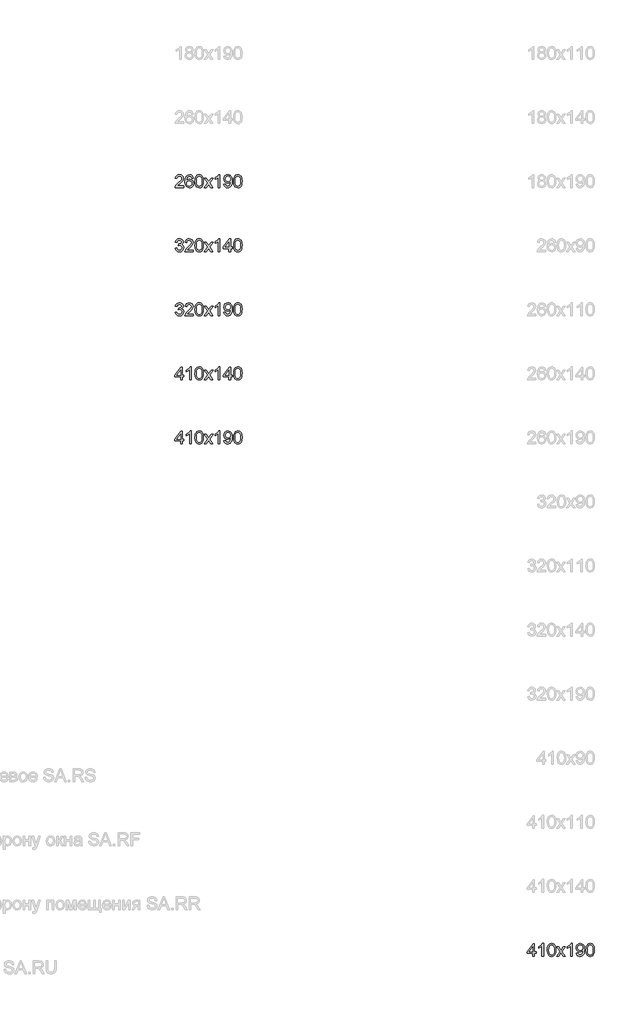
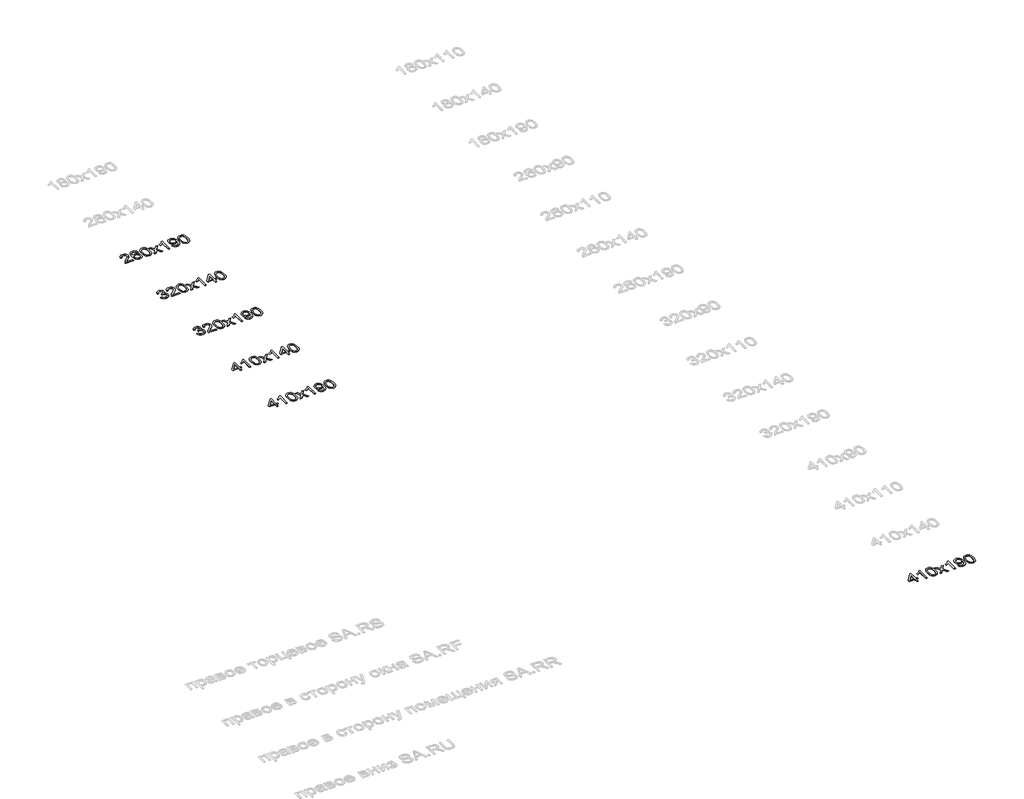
# One storey, part 10 of 17: 6 proxies.
"""IFC4 building model written with IfcOpenShell, lengths in millimetres."""

import ifcopenshell
import ifcopenshell.guid

model = None  # the IFC model being written
_history = None  # IfcOwnerHistory: only IFC2X3 demands one
_inside = {}  # id of a spatial element -> (the spatial element, [elements in it])
_under = {}  # id of a project, library or spatial element -> (it, [spatial elements below it])
_declared = {}  # id of a project -> (the project, [libraries it declares])
_typed = {}  # id of a type object -> (the type object, [elements of that type])
_made_of = {}  # id of a material, layer set ... -> (it, [elements and type objects made of it])


def new_model(schema):
    """Start an empty IFC model of exactly this schema.

    Asked for "IFC4X3", IfcOpenShell would pick the latest addendum, in which some entities
    have other attributes; the version numbers below select the first issue.
    IFC2X3 requires an IfcOwnerHistory on every rooted entity: one is made here for all.
    """
    global model, _history
    if schema == "IFC4X3":
        model = ifcopenshell.file(schema_version=(4, 3, 0, 0))
    else:
        model = ifcopenshell.file(schema=schema)
    _inside.clear()
    _under.clear()
    _declared.clear()
    _typed.clear()
    _made_of.clear()
    _history = None
    if model.schema == "IFC2X3":
        org = make("IfcOrganization", Name="unknown")
        user = make(
            "IfcPersonAndOrganization",
            ThePerson=make("IfcPerson", FamilyName="unknown"),
            TheOrganization=org,
        )
        app = make(
            "IfcApplication",
            ApplicationDeveloper=org,
            Version="unknown",
            ApplicationFullName="unknown",
            ApplicationIdentifier="unknown",
        )
        _history = make(
            "IfcOwnerHistory",
            OwningUser=user,
            OwningApplication=app,
            ChangeAction="ADDED",
            CreationDate=0,
        )
    return model


def make(cls, **values):
    """One entity of the class cls with the attributes given. An attribute that is None is left unset."""
    return model.create_entity(
        cls, **{name: value for name, value in values.items() if value is not None}
    )


def rooted(cls, **values):
    """An entity with a GlobalId (a new one), such as an element, a storey or a relation."""
    return make(cls, GlobalId=ifcopenshell.guid.new(), OwnerHistory=_history, **values)


def si_unit(unit_type, name, prefix=None):
    """IfcSIUnit, for example si_unit("LENGTHUNIT", "METRE", prefix="MILLI")."""
    return make("IfcSIUnit", UnitType=unit_type, Prefix=prefix, Name=name)


def assignment(units):
    """IfcUnitAssignment: the units of a project."""
    return None if units is None else make("IfcUnitAssignment", Units=units)


def point(xyz):
    """IfcCartesianPoint."""
    return None if xyz is None else make("IfcCartesianPoint", Coordinates=xyz)


def direction(xyz):
    """IfcDirection."""
    return None if xyz is None else make("IfcDirection", DirectionRatios=xyz)


def frame(location, z_axis=None, x_axis=None):
    """IfcAxis2Placement3D, a coordinate frame: its origin and axes. An axis left out is left unset."""
    return make(
        "IfcAxis2Placement3D",
        Location=point(location),
        Axis=direction(z_axis),
        RefDirection=direction(x_axis),
    )


def origin():
    """The frame at (0, 0, 0) with its axes left unset."""
    return frame((0.0, 0.0, 0.0))


def origin_with_axes():
    """The frame at (0, 0, 0) with the z axis (0, 0, 1) and the x axis (1, 0, 0) written out."""
    return frame((0.0, 0.0, 0.0), z_axis=(0.0, 0.0, 1.0), x_axis=(1.0, 0.0, 0.0))


def place(relative_to, where):
    """IfcLocalPlacement: puts the frame where relative to a parent placement (None: the world)."""
    return make(
        "IfcLocalPlacement", PlacementRelTo=relative_to, RelativePlacement=where
    )


def context(
    kind, dimensions, precision=None, world=None, true_north=None, identifier=None
):
    """IfcGeometricRepresentationContext, for example the 3D "Model" context."""
    return make(
        "IfcGeometricRepresentationContext",
        ContextIdentifier=identifier,
        ContextType=kind,
        CoordinateSpaceDimension=dimensions,
        Precision=precision,
        WorldCoordinateSystem=world,
        TrueNorth=true_north,
    )


def project(units=None, contexts=None):
    """IfcProject with its units and contexts."""
    return rooted(
        "IfcProject",
        Name="project",
        RepresentationContexts=contexts,
        UnitsInContext=assignment(units),
    )


def spatial(cls, under=None, at=None, **own):
    """A site, building, storey or space (cls), placed at a placement, below another one or the project."""
    s = rooted(cls, ObjectPlacement=at, **own)
    if under is not None:
        _under.setdefault(under.id(), (under, []))[1].append(s)
    return s


def polyline(points):
    """IfcPolyline through the points."""
    return make("IfcPolyline", Points=[point(p) for p in points])


def outline(outer, holes=None, kind="AREA"):
    """IfcArbitraryClosedProfileDef: a profile drawn as a closed curve; with holes, ...WithVoids."""
    if holes is None:
        return make("IfcArbitraryClosedProfileDef", ProfileType=kind, OuterCurve=outer)
    return make(
        "IfcArbitraryProfileDefWithVoids",
        ProfileType=kind,
        OuterCurve=outer,
        InnerCurves=holes,
    )


def extrude(swept, where, along, depth):
    """IfcExtrudedAreaSolid: the profile swept, set in the frame where, extruded along a direction by depth."""
    return make(
        "IfcExtrudedAreaSolid",
        SweptArea=swept,
        Position=where,
        ExtrudedDirection=direction(along),
        Depth=depth,
    )


def shape(context_of_items, identifier, shape_type, items):
    """IfcShapeRepresentation: the items that make up one representation, for example the "Body"."""
    return make(
        "IfcShapeRepresentation",
        ContextOfItems=context_of_items,
        RepresentationIdentifier=identifier,
        RepresentationType=shape_type,
        Items=items,
    )


def made_of(thing, what):
    """Note that an element or type object is made of a material, layer set ...; save() writes the relation."""
    if what is not None:
        _made_of.setdefault(what.id(), (what, []))[1].append(thing)
    return thing


def element(
    cls,
    number,
    at=None,
    inside=None,
    cuts=None,
    type_object=None,
    material=None,
    context=None,
    identifier="Body",
    shape_type=None,
    held_by="IfcProductDefinitionShape",
    body=None,
    shapes=None,
    **own,
):
    """One element of the class cls, such as IfcWall. Its Tag is "e" and its number.

    at: its placement. inside: the storey or other place that contains it. cuts: it is an
    opening in that element (IfcRelVoidsElement). A single representation is given by context,
    identifier, shape_type and body (its items); several are given by shapes. held_by: the class
    of the entity that holds the representations. save() writes the other relations.
    """
    e = rooted(cls, Tag="e%d" % number, ObjectPlacement=at, **own)
    if body is not None:
        shapes = [shape(context, identifier, shape_type, body)]
    if shapes is not None:
        e.Representation = make(held_by, Representations=shapes)
    if inside is not None:
        _inside.setdefault(inside.id(), (inside, []))[1].append(e)
    if cuts is not None:
        rooted(
            "IfcRelVoidsElement", RelatingBuildingElement=cuts, RelatedOpeningElement=e
        )
    if type_object is not None:
        _typed.setdefault(type_object.id(), (type_object, []))[1].append(e)
    return made_of(e, material)


def aggregate(whole, parts):
    """IfcRelAggregates: a whole, such as a stair, and the parts it consists of."""
    return rooted("IfcRelAggregates", RelatingObject=whole, RelatedObjects=parts)


def save(model, path):
    """Write the relations noted so far, then the file.

    IfcRelAggregates (storeys below a building ...), IfcRelContainedInSpatialStructure (elements
    in a storey), IfcRelDefinesByType, IfcRelAssociatesMaterial and IfcRelDeclares: one each for
    every whole, place, type object, material and project.
    """
    for whole, parts in _under.values():
        aggregate(whole, parts)
    for where, things in _inside.values():
        rooted(
            "IfcRelContainedInSpatialStructure",
            RelatedElements=things,
            RelatingStructure=where,
        )
    for kind, things in _typed.values():
        rooted("IfcRelDefinesByType", RelatedObjects=things, RelatingType=kind)
    for what, things in _made_of.values():
        rooted("IfcRelAssociatesMaterial", RelatedObjects=things, RelatingMaterial=what)
    for by, libraries in _declared.values():
        rooted("IfcRelDeclares", RelatingContext=by, RelatedDefinitions=libraries)
    model.write(path)


model = new_model("IFC4")

# Units and contexts
model_context = context("Model", 3, world=origin())
ifc_project = project(units=[si_unit("LENGTHUNIT", "METRE", prefix="MILLI")], contexts=[model_context])

# Site, building, storey
site = spatial("IfcSite", under=ifc_project)
building = spatial("IfcBuilding", under=site)
storey = spatial("IfcBuildingStorey", under=building, Name="Уровень 1", Elevation=0.0)

# Proxies
placement = place(None, origin())
element("IfcBuildingElementProxy", 1, Name="Текст модели 1", ObjectType="Текст модели 1", at=placement, inside=storey, context=model_context, shape_type="SweptSolid", body=[
    extrude(outline(polyline([(28887.2782272, -428.1283927), (28887.2782272, -453.2424702), (28755.4293201, -453.2424702), (28758.1271214, -435.927491), (28773.3819615, -409.2683091), (28804.8236093, -380.1565805), (28848.1846338, -338.316135), (28856.3148259, -323.8951607), (28859.0248899, -309.866594), (28856.4681101, -297.2911611), (28848.7977705, -286.8371811), (28837.0071525, -279.7922409), (28822.0895376, -277.4439275), (28806.423896, -279.7370586), (28794.2531333, -286.6164519), (28786.3988527, -297.5425472), (28783.6826573, -311.9757841), (28758.5685798, -308.8365244), (28764.6570268, -284.54405), (28777.8210709, -266.7998751), (28797.3739989, -255.9473562), (28822.6290979, -252.3298499), (28848.0681378, -256.3520264), (28867.5842777, -268.4185559), (28880.000295, -286.4447736), (28884.1389675, -308.3460151), (28879.6753326, -332.1602429), (28864.8374255, -356.7838111), (28828.8585663, -391.1930404), (28799.967567, -415.3506247), (28788.6368015, -428.1283927), (28887.2782272, -428.1283927)])), origin_with_axes(), (0.0, 0.0, 1.0), 2.0),
    extrude(outline(polyline([(29041.1019521, -305.6972647), (29015.9878745, -308.8365244), (29006.4719936, -287.8917761), (28995.0799145, -280.0558897), (28981.3088651, -277.4439275), (28958.6473342, -283.5262431), (28949.2111611, -293.1340946), (28941.5040333, -306.3594523), (28936.298503, -325.0662518), (28934.3671225, -351.1184284), (28944.4409578, -339.3645986), (28956.5136187, -331.0811224), (28969.9106546, -326.1698977), (28983.9576155, -324.5328229), (29007.1587067, -329.0087205), (29026.6319269, -342.4364133), (29039.8388906, -362.9519659), (29044.2412118, -388.6914428), (29042.1688099, -406.674741), (29035.9516042, -423.3459268), (29026.1046294, -437.4848581), (29013.1429204, -447.8713931), (28997.6550885, -454.2541457), (28980.2297446, -456.3817299), (28951.7372841, -450.7408727), (28929.0450964, -433.8183009), (28920.3860739, -420.7094391), (28914.2010578, -403.9462829), (28909.253045, -359.4570869), (28914.7467495, -309.4373983), (28921.61388, -290.3596512), (28931.2278629, -275.2366355), (28941.6481204, -265.2149168), (28953.7299782, -258.0565463), (28982.878495, -252.3298499), (29004.9146265, -255.8737798), (29022.5606995, -266.5055695), (29034.9215346, -283.3913531), (29041.1019521, -305.6972647)]), holes=[polyline([(28934.3671225, -388.2990354), (28940.1796581, -410.053124), (28955.6307019, -425.8475243), (28978.2677073, -431.2676524), (28994.8407912, -428.4594865), (29007.8699452, -420.0349888), (29016.312837, -406.791237), (29019.1271342, -389.5253087), (29016.3496252, -372.9522248), (29008.017098, -360.3154783), (28994.7672148, -352.3140449), (28977.2376377, -349.6469004), (28960.6890793, -352.3140449), (28946.8505849, -360.3154783), (28937.4879881, -372.6456565), (28934.3671225, -388.2990354)])]), origin_with_axes(), (0.0, 0.0, 1.0), 2.0),
    extrude(outline(polyline([(29066.2160296, -354.4048409), (29068.061571, -322.2458231), (29073.598195, -296.5983167), (29082.7707194, -277.0699141), (29095.5239619, -263.2682079), (29111.949893, -255.0644394), (29132.1404832, -252.3298499), (29147.6160524, -253.9485307), (29161.4729409, -258.8045731), (29173.0612238, -266.7079046), (29181.7309761, -277.468453), (29193.5032, -307.1933182), (29198.0649367, -354.4048409), (29196.2377894, -386.3799176), (29190.7563477, -411.9661104), (29181.6390056, -431.5129071), (29168.9041572, -445.3697956), (29152.4414379, -453.6287463), (29132.1404832, -456.3817299), (29106.045387, -451.599264), (29086.2288102, -437.2518662), (29077.4732187, -422.1227191), (29071.2192248, -403.2718326), (29066.2160296, -354.4048409)]), holes=[polyline([(29091.3301072, -354.3557899), (29094.2731631, -393.8601849), (29103.102331, -416.7240509), (29116.247981, -427.631752), (29132.1404832, -431.2676524), (29148.0329853, -427.6194893), (29161.1786353, -416.6749999), (29170.0078032, -393.7988712), (29172.9508592, -354.3557899), (29170.1059051, -315.7404432), (29161.5710428, -292.6987676), (29148.4499183, -281.2576375), (29131.8461776, -277.4439275), (29116.1253536, -280.8039164), (29103.4947385, -290.883883), (29094.371265, -315.3602985), (29091.3301072, -354.3557899)])]), origin_with_axes(), (0.0, 0.0, 1.0), 2.0),
    extrude(outline(polyline([(29210.6219755, -453.2424702), (29264.2836958, -379.07746), (29213.7612352, -305.6972647), (29243.9766097, -305.6972647), (29268.3549232, -341.0139363), (29279.7347396, -357.6912534), (29289.5939771, -344.0550941), (29317.356805, -305.6972647), (29347.5721795, -305.6972647), (29294.4990704, -379.07746), (29345.6101422, -453.2424702), (29315.3947677, -453.2424702), (29284.6398329, -408.6551724), (29278.9989756, -400.5127176), (29240.83735, -453.2424702), (29210.6219755, -453.2424702)])), origin_with_axes(), (0.0, 0.0, 1.0), 2.0),
    extrude(outline(polyline([(29455.4842314, -453.2424702), (29430.3701539, -453.2424702), (29430.3701539, -296.6718931), (29406.5804516, -313.6189903), (29380.1419988, -326.2986564), (29380.1419988, -302.558005), (29416.9547238, -279.0626083), (29430.4253362, -265.4877626), (29439.2974237, -252.3298499), (29455.4842314, -252.3298499), (29455.4842314, -453.2424702)])), origin_with_axes(), (0.0, 0.0, 1.0), 2.0),
    extrude(outline(polyline([(29518.2694253, -403.0143152), (29543.3835028, -399.8750555), (29547.6754594, -414.1304828), (29554.6652173, -423.8364361), (29564.1810983, -429.4098483), (29576.051424, -431.2676524), (29596.3830356, -426.4851865), (29610.1663477, -413.7074185), (29618.3823789, -391.8797535), (29622.0121479, -362.7434994), (29621.8649951, -357.8384062), (29613.1645859, -368.4579331), (29601.7786382, -376.870168), (29588.528755, -382.3516098), (29574.2365395, -384.178757), (29551.3358853, -379.7151221), (29532.2734666, -366.3242175), (29519.4159908, -345.6369867), (29515.1301656, -319.2843731), (29519.6244573, -292.0611054), (29533.1073324, -270.7239497), (29553.3592363, -256.9283749), (29578.1606141, -252.3298499), (29596.891939, -254.9540748), (29613.9432695, -262.8267495), (29628.2048282, -275.5554666), (29638.5668377, -292.7478185), (29644.8760139, -316.5129954), (29646.9790727, -348.9601873), (29644.8821453, -383.3632853), (29638.5913632, -409.9550221), (29628.1619086, -429.9371459), (29613.6489639, -444.5114042), (29595.6779284, -453.4141485), (29574.8742016, -456.3817299), (29553.4021558, -452.8807196), (29536.2711176, -442.3776887), (29524.2904273, -425.5348246), (29518.2694253, -403.0143152)]), holes=[polyline([(29621.8649951, -318.6957619), (29619.1549311, -301.6750882), (29611.024739, -288.5784892), (29598.4063866, -280.2275679), (29582.2318415, -277.4439275), (29565.4564225, -280.4421657), (29552.016467, -289.4368805), (29543.1872991, -303.2017985), (29540.2442431, -320.5106464), (29543.0278836, -336.0291352), (29551.3788049, -348.3470507), (29564.4876666, -356.3852723), (29581.5451285, -359.0646795), (29597.5909148, -356.3852723), (29610.5097042, -348.3470507), (29619.0261724, -335.5754141), (29621.8649951, -318.6957619)])]), origin_with_axes(), (0.0, 0.0, 1.0), 2.0),
    extrude(outline(polyline([(29668.9538905, -354.4048409), (29670.7994319, -322.2458231), (29676.3360559, -296.5983167), (29685.5085803, -277.0699141), (29698.2618228, -263.2682079), (29714.6877539, -255.0644394), (29734.8783441, -252.3298499), (29750.3539133, -253.9485307), (29764.2108018, -258.8045731), (29775.7990847, -266.7079046), (29784.468837, -277.468453), (29796.2410608, -307.1933182), (29800.8027976, -354.4048409), (29798.9756503, -386.3799176), (29793.4942086, -411.9661104), (29784.3768665, -431.5129071), (29771.6420181, -445.3697956), (29755.1792988, -453.6287463), (29734.8783441, -456.3817299), (29708.7832479, -451.599264), (29688.9666711, -437.2518662), (29680.2110796, -422.1227191), (29673.9570857, -403.2718326), (29668.9538905, -354.4048409)]), holes=[polyline([(29694.0679681, -354.3557899), (29697.011024, -393.8601849), (29705.8401919, -416.7240509), (29718.9858419, -427.631752), (29734.8783441, -431.2676524), (29750.7708462, -427.6194893), (29763.9164962, -416.6749999), (29772.7456641, -393.7988712), (29775.6887201, -354.3557899), (29772.843766, -315.7404432), (29764.3089037, -292.6987676), (29751.1877792, -281.2576375), (29734.5840385, -277.4439275), (29718.8632145, -280.8039164), (29706.2325994, -290.883883), (29697.1091259, -315.3602985), (29694.0679681, -354.3557899)])]), origin_with_axes(), (0.0, 0.0, 1.0), 2.0),
])
element("IfcBuildingElementProxy", 2, Name="Текст модели 1", ObjectType="Текст модели 1", at=placement, inside=storey, context=model_context, shape_type="SweptSolid", body=[
    extrude(outline(polyline([(28758.5685798, -1399.8750555), (28783.6826573, -1396.7357958), (28789.3051205, -1412.5179334), (28797.5395458, -1423.1742485), (28808.7906035, -1429.2443014), (28823.4629637, -1431.2676524), (28840.6798411, -1428.484012), (28853.9726439, -1420.1330907), (28862.470718, -1407.6741538), (28865.3034093, -1392.5664665), (28862.4952434, -1378.2252001), (28854.0707457, -1366.5939977), (28841.3175032, -1358.8868699), (28825.5231029, -1356.3178273), (28807.9138181, -1359.0646795), (28810.7097212, -1333.9506019), (28814.7318977, -1334.2449075), (28829.7782713, -1332.4422858), (28843.2304896, -1327.0344204), (28852.7218451, -1317.8864215), (28855.8856302, -1304.8633989), (28853.5924991, -1294.0170114), (28846.7131058, -1285.2185003), (28836.2162062, -1279.3875707), (28823.0705563, -1277.4439275), (28809.9003808, -1279.4059648), (28799.1337011, -1285.2920767), (28791.2732892, -1295.1022633), (28786.821917, -1308.8365244), (28761.7078395, -1305.6972647), (28769.1022676, -1283.1460984), (28782.2601803, -1266.3093658), (28800.2618726, -1255.8247289), (28822.1876395, -1252.3298499), (28837.9759084, -1254.052764), (28852.4765904, -1259.221506), (28864.7025354, -1267.3762236), (28873.6665933, -1278.0570641), (28879.1664292, -1290.3627169), (28880.9997078, -1303.3918709), (28879.2583997, -1315.5319767), (28874.0344753, -1326.5439111), (28865.4015112, -1335.924902), (28853.4330836, -1343.1721773), (28869.1539075, -1349.5242731), (28880.8035041, -1360.3400037), (28888.0139912, -1375.0307581), (28890.4174869, -1393.0079249), (28885.6104955, -1417.4843403), (28871.1895212, -1437.9385792), (28849.4231699, -1451.7709423), (28822.5800469, -1456.3817299), (28798.2998353, -1452.4453926), (28778.5323094, -1440.6363805), (28764.7857855, -1422.5733746), (28758.5685798, -1399.8750555)])), origin_with_axes(), (0.0, 0.0, 1.0), 2.0),
    extrude(outline(polyline([(29041.1019521, -1428.1283927), (29041.1019521, -1453.2424702), (28909.253045, -1453.2424702), (28911.9508463, -1435.927491), (28927.2056864, -1409.2683091), (28958.6473342, -1380.1565805), (29002.0083587, -1338.316135), (29010.1385508, -1323.8951607), (29012.8486149, -1309.866594), (29010.291835, -1297.2911611), (29002.6214954, -1286.8371811), (28990.8308774, -1279.7922409), (28975.9132625, -1277.4439275), (28960.2476209, -1279.7370586), (28948.0768582, -1286.6164519), (28940.2225776, -1297.5425472), (28937.5063822, -1311.9757841), (28912.3923047, -1308.8365244), (28918.4807517, -1284.54405), (28931.6447958, -1266.7998751), (28951.1977238, -1255.9473562), (28976.4528228, -1252.3298499), (29001.8918628, -1256.3520264), (29021.4080026, -1268.4185559), (29033.8240199, -1286.4447736), (29037.9626924, -1308.3460151), (29033.4990575, -1332.1602429), (29018.6611504, -1356.7838111), (28982.6822912, -1391.1930404), (28953.7912919, -1415.3506247), (28942.4605264, -1428.1283927), (29041.1019521, -1428.1283927)])), origin_with_axes(), (0.0, 0.0, 1.0), 2.0),
    extrude(outline(polyline([(29066.2160296, -1354.4048409), (29068.061571, -1322.2458231), (29073.598195, -1296.5983167), (29082.7707194, -1277.0699141), (29095.5239619, -1263.2682079), (29111.949893, -1255.0644394), (29132.1404832, -1252.3298499), (29147.6160524, -1253.9485307), (29161.4729409, -1258.8045731), (29173.0612238, -1266.7079046), (29181.7309761, -1277.468453), (29193.5032, -1307.1933182), (29198.0649367, -1354.4048409), (29196.2377894, -1386.3799176), (29190.7563477, -1411.9661104), (29181.6390056, -1431.5129071), (29168.9041572, -1445.3697956), (29152.4414379, -1453.6287463), (29132.1404832, -1456.3817299), (29106.045387, -1451.599264), (29086.2288102, -1437.2518662), (29077.4732187, -1422.1227191), (29071.2192248, -1403.2718326), (29066.2160296, -1354.4048409)]), holes=[polyline([(29091.3301072, -1354.3557899), (29094.2731631, -1393.8601849), (29103.102331, -1416.7240509), (29116.247981, -1427.631752), (29132.1404832, -1431.2676524), (29148.0329853, -1427.6194893), (29161.1786353, -1416.6749999), (29170.0078032, -1393.7988712), (29172.9508592, -1354.3557899), (29170.1059051, -1315.7404432), (29161.5710428, -1292.6987676), (29148.4499183, -1281.2576375), (29131.8461776, -1277.4439275), (29116.1253536, -1280.8039164), (29103.4947385, -1290.883883), (29094.371265, -1315.3602985), (29091.3301072, -1354.3557899)])]), origin_with_axes(), (0.0, 0.0, 1.0), 2.0),
    extrude(outline(polyline([(29210.6219755, -1453.2424702), (29264.2836958, -1379.07746), (29213.7612352, -1305.6972647), (29243.9766097, -1305.6972647), (29268.3549232, -1341.0139363), (29279.7347396, -1357.6912534), (29289.5939771, -1344.0550941), (29317.356805, -1305.6972647), (29347.5721795, -1305.6972647), (29294.4990704, -1379.07746), (29345.6101422, -1453.2424702), (29315.3947677, -1453.2424702), (29284.6398329, -1408.6551724), (29278.9989756, -1400.5127176), (29240.83735, -1453.2424702), (29210.6219755, -1453.2424702)])), origin_with_axes(), (0.0, 0.0, 1.0), 2.0),
    extrude(outline(polyline([(29455.4842314, -1453.2424702), (29430.3701539, -1453.2424702), (29430.3701539, -1296.6718931), (29406.5804516, -1313.6189903), (29380.1419988, -1326.2986564), (29380.1419988, -1302.558005), (29416.9547238, -1279.0626083), (29430.4253362, -1265.4877626), (29439.2974237, -1252.3298499), (29455.4842314, -1252.3298499), (29455.4842314, -1453.2424702)])), origin_with_axes(), (0.0, 0.0, 1.0), 2.0),
    extrude(outline(polyline([(29596.7509176, -1453.2424702), (29596.7509176, -1406.1535749), (29505.7123865, -1406.1535749), (29505.7123865, -1381.0394973), (29603.029437, -1255.4691096), (29621.8649951, -1255.4691096), (29621.8649951, -1381.0394973), (29646.9790727, -1381.0394973), (29646.9790727, -1406.1535749), (29621.8649951, -1406.1535749), (29621.8649951, -1453.2424702), (29596.7509176, -1453.2424702)]), holes=[polyline([(29596.7509176, -1381.0394973), (29596.7509176, -1303.4409218), (29536.6144741, -1381.0394973), (29596.7509176, -1381.0394973)])]), origin_with_axes(), (0.0, 0.0, 1.0), 2.0),
    extrude(outline(polyline([(29668.9538905, -1354.4048409), (29670.7994319, -1322.2458231), (29676.3360559, -1296.5983167), (29685.5085803, -1277.0699141), (29698.2618228, -1263.2682079), (29714.6877539, -1255.0644394), (29734.8783441, -1252.3298499), (29750.3539133, -1253.9485307), (29764.2108018, -1258.8045731), (29775.7990847, -1266.7079046), (29784.468837, -1277.468453), (29796.2410608, -1307.1933182), (29800.8027976, -1354.4048409), (29798.9756503, -1386.3799176), (29793.4942086, -1411.9661104), (29784.3768665, -1431.5129071), (29771.6420181, -1445.3697956), (29755.1792988, -1453.6287463), (29734.8783441, -1456.3817299), (29708.7832479, -1451.599264), (29688.9666711, -1437.2518662), (29680.2110796, -1422.1227191), (29673.9570857, -1403.2718326), (29668.9538905, -1354.4048409)]), holes=[polyline([(29694.0679681, -1354.3557899), (29697.011024, -1393.8601849), (29705.8401919, -1416.7240509), (29718.9858419, -1427.631752), (29734.8783441, -1431.2676524), (29750.7708462, -1427.6194893), (29763.9164962, -1416.6749999), (29772.7456641, -1393.7988712), (29775.6887201, -1354.3557899), (29772.843766, -1315.7404432), (29764.3089037, -1292.6987676), (29751.1877792, -1281.2576375), (29734.5840385, -1277.4439275), (29718.8632145, -1280.8039164), (29706.2325994, -1290.883883), (29697.1091259, -1315.3602985), (29694.0679681, -1354.3557899)])]), origin_with_axes(), (0.0, 0.0, 1.0), 2.0),
])
element("IfcBuildingElementProxy", 3, Name="Текст модели 1", ObjectType="Текст модели 1", at=placement, inside=storey, context=model_context, shape_type="SweptSolid", body=[
    extrude(outline(polyline([(28758.5685798, -2399.8750555), (28783.6826573, -2396.7357958), (28789.3051205, -2412.5179334), (28797.5395458, -2423.1742485), (28808.7906035, -2429.2443014), (28823.4629637, -2431.2676524), (28840.6798411, -2428.484012), (28853.9726439, -2420.1330907), (28862.470718, -2407.6741538), (28865.3034093, -2392.5664665), (28862.4952434, -2378.2252001), (28854.0707457, -2366.5939977), (28841.3175032, -2358.8868699), (28825.5231029, -2356.3178273), (28807.9138181, -2359.0646795), (28810.7097212, -2333.9506019), (28814.7318977, -2334.2449075), (28829.7782713, -2332.4422858), (28843.2304896, -2327.0344204), (28852.7218451, -2317.8864215), (28855.8856302, -2304.8633989), (28853.5924991, -2294.0170114), (28846.7131058, -2285.2185003), (28836.2162062, -2279.3875707), (28823.0705563, -2277.4439275), (28809.9003808, -2279.4059648), (28799.1337011, -2285.2920767), (28791.2732892, -2295.1022633), (28786.821917, -2308.8365244), (28761.7078395, -2305.6972647), (28769.1022676, -2283.1460984), (28782.2601803, -2266.3093658), (28800.2618726, -2255.8247289), (28822.1876395, -2252.3298499), (28837.9759084, -2254.052764), (28852.4765904, -2259.221506), (28864.7025354, -2267.3762236), (28873.6665933, -2278.0570641), (28879.1664292, -2290.3627169), (28880.9997078, -2303.3918709), (28879.2583997, -2315.5319767), (28874.0344753, -2326.5439111), (28865.4015112, -2335.924902), (28853.4330836, -2343.1721773), (28869.1539075, -2349.5242731), (28880.8035041, -2360.3400037), (28888.0139912, -2375.0307581), (28890.4174869, -2393.0079249), (28885.6104955, -2417.4843403), (28871.1895212, -2437.9385792), (28849.4231699, -2451.7709423), (28822.5800469, -2456.3817299), (28798.2998353, -2452.4453926), (28778.5323094, -2440.6363805), (28764.7857855, -2422.5733746), (28758.5685798, -2399.8750555)])), origin_with_axes(), (0.0, 0.0, 1.0), 2.0),
    extrude(outline(polyline([(29041.1019521, -2428.1283927), (29041.1019521, -2453.2424702), (28909.253045, -2453.2424702), (28911.9508463, -2435.927491), (28927.2056864, -2409.2683091), (28958.6473342, -2380.1565805), (29002.0083587, -2338.316135), (29010.1385508, -2323.8951607), (29012.8486149, -2309.866594), (29010.291835, -2297.2911611), (29002.6214954, -2286.8371811), (28990.8308774, -2279.7922409), (28975.9132625, -2277.4439275), (28960.2476209, -2279.7370586), (28948.0768582, -2286.6164519), (28940.2225776, -2297.5425472), (28937.5063822, -2311.9757841), (28912.3923047, -2308.8365244), (28918.4807517, -2284.54405), (28931.6447958, -2266.7998751), (28951.1977238, -2255.9473562), (28976.4528228, -2252.3298499), (29001.8918628, -2256.3520264), (29021.4080026, -2268.4185559), (29033.8240199, -2286.4447736), (29037.9626924, -2308.3460151), (29033.4990575, -2332.1602429), (29018.6611504, -2356.7838111), (28982.6822912, -2391.1930404), (28953.7912919, -2415.3506247), (28942.4605264, -2428.1283927), (29041.1019521, -2428.1283927)])), origin_with_axes(), (0.0, 0.0, 1.0), 2.0),
    extrude(outline(polyline([(29066.2160296, -2354.4048409), (29068.061571, -2322.2458231), (29073.598195, -2296.5983167), (29082.7707194, -2277.0699141), (29095.5239619, -2263.2682079), (29111.949893, -2255.0644394), (29132.1404832, -2252.3298499), (29147.6160524, -2253.9485307), (29161.4729409, -2258.8045731), (29173.0612238, -2266.7079046), (29181.7309761, -2277.468453), (29193.5032, -2307.1933182), (29198.0649367, -2354.4048409), (29196.2377894, -2386.3799176), (29190.7563477, -2411.9661104), (29181.6390056, -2431.5129071), (29168.9041572, -2445.3697956), (29152.4414379, -2453.6287463), (29132.1404832, -2456.3817299), (29106.045387, -2451.599264), (29086.2288102, -2437.2518662), (29077.4732187, -2422.1227191), (29071.2192248, -2403.2718326), (29066.2160296, -2354.4048409)]), holes=[polyline([(29091.3301072, -2354.3557899), (29094.2731631, -2393.8601849), (29103.102331, -2416.7240509), (29116.247981, -2427.631752), (29132.1404832, -2431.2676524), (29148.0329853, -2427.6194893), (29161.1786353, -2416.6749999), (29170.0078032, -2393.7988712), (29172.9508592, -2354.3557899), (29170.1059051, -2315.7404432), (29161.5710428, -2292.6987676), (29148.4499183, -2281.2576375), (29131.8461776, -2277.4439275), (29116.1253536, -2280.8039164), (29103.4947385, -2290.883883), (29094.371265, -2315.3602985), (29091.3301072, -2354.3557899)])]), origin_with_axes(), (0.0, 0.0, 1.0), 2.0),
    extrude(outline(polyline([(29210.6219755, -2453.2424702), (29264.2836958, -2379.07746), (29213.7612352, -2305.6972647), (29243.9766097, -2305.6972647), (29268.3549232, -2341.0139363), (29279.7347396, -2357.6912534), (29289.5939771, -2344.0550941), (29317.356805, -2305.6972647), (29347.5721795, -2305.6972647), (29294.4990704, -2379.07746), (29345.6101422, -2453.2424702), (29315.3947677, -2453.2424702), (29284.6398329, -2408.6551724), (29278.9989756, -2400.5127176), (29240.83735, -2453.2424702), (29210.6219755, -2453.2424702)])), origin_with_axes(), (0.0, 0.0, 1.0), 2.0),
    extrude(outline(polyline([(29455.4842314, -2453.2424702), (29430.3701539, -2453.2424702), (29430.3701539, -2296.6718931), (29406.5804516, -2313.6189903), (29380.1419988, -2326.2986564), (29380.1419988, -2302.558005), (29416.9547238, -2279.0626083), (29430.4253362, -2265.4877626), (29439.2974237, -2252.3298499), (29455.4842314, -2252.3298499), (29455.4842314, -2453.2424702)])), origin_with_axes(), (0.0, 0.0, 1.0), 2.0),
    extrude(outline(polyline([(29518.2694253, -2403.0143152), (29543.3835028, -2399.8750555), (29547.6754594, -2414.1304828), (29554.6652173, -2423.8364361), (29564.1810983, -2429.4098483), (29576.051424, -2431.2676524), (29596.3830356, -2426.4851865), (29610.1663477, -2413.7074185), (29618.3823789, -2391.8797535), (29622.0121479, -2362.7434994), (29621.8649951, -2357.8384062), (29613.1645859, -2368.4579331), (29601.7786382, -2376.870168), (29588.528755, -2382.3516098), (29574.2365395, -2384.178757), (29551.3358853, -2379.7151221), (29532.2734666, -2366.3242175), (29519.4159908, -2345.6369867), (29515.1301656, -2319.2843731), (29519.6244573, -2292.0611054), (29533.1073324, -2270.7239497), (29553.3592363, -2256.9283749), (29578.1606141, -2252.3298499), (29596.891939, -2254.9540748), (29613.9432695, -2262.8267495), (29628.2048282, -2275.5554666), (29638.5668377, -2292.7478185), (29644.8760139, -2316.5129954), (29646.9790727, -2348.9601873), (29644.8821453, -2383.3632853), (29638.5913632, -2409.9550221), (29628.1619086, -2429.9371459), (29613.6489639, -2444.5114042), (29595.6779284, -2453.4141485), (29574.8742016, -2456.3817299), (29553.4021558, -2452.8807196), (29536.2711176, -2442.3776887), (29524.2904273, -2425.5348246), (29518.2694253, -2403.0143152)]), holes=[polyline([(29621.8649951, -2318.6957619), (29619.1549311, -2301.6750882), (29611.024739, -2288.5784892), (29598.4063866, -2280.2275679), (29582.2318415, -2277.4439275), (29565.4564225, -2280.4421657), (29552.016467, -2289.4368805), (29543.1872991, -2303.2017985), (29540.2442431, -2320.5106464), (29543.0278836, -2336.0291352), (29551.3788049, -2348.3470507), (29564.4876666, -2356.3852723), (29581.5451285, -2359.0646795), (29597.5909148, -2356.3852723), (29610.5097042, -2348.3470507), (29619.0261724, -2335.5754141), (29621.8649951, -2318.6957619)])]), origin_with_axes(), (0.0, 0.0, 1.0), 2.0),
    extrude(outline(polyline([(29668.9538905, -2354.4048409), (29670.7994319, -2322.2458231), (29676.3360559, -2296.5983167), (29685.5085803, -2277.0699141), (29698.2618228, -2263.2682079), (29714.6877539, -2255.0644394), (29734.8783441, -2252.3298499), (29750.3539133, -2253.9485307), (29764.2108018, -2258.8045731), (29775.7990847, -2266.7079046), (29784.468837, -2277.468453), (29796.2410608, -2307.1933182), (29800.8027976, -2354.4048409), (29798.9756503, -2386.3799176), (29793.4942086, -2411.9661104), (29784.3768665, -2431.5129071), (29771.6420181, -2445.3697956), (29755.1792988, -2453.6287463), (29734.8783441, -2456.3817299), (29708.7832479, -2451.599264), (29688.9666711, -2437.2518662), (29680.2110796, -2422.1227191), (29673.9570857, -2403.2718326), (29668.9538905, -2354.4048409)]), holes=[polyline([(29694.0679681, -2354.3557899), (29697.011024, -2393.8601849), (29705.8401919, -2416.7240509), (29718.9858419, -2427.631752), (29734.8783441, -2431.2676524), (29750.7708462, -2427.6194893), (29763.9164962, -2416.6749999), (29772.7456641, -2393.7988712), (29775.6887201, -2354.3557899), (29772.843766, -2315.7404432), (29764.3089037, -2292.6987676), (29751.1877792, -2281.2576375), (29734.5840385, -2277.4439275), (29718.8632145, -2280.8039164), (29706.2325994, -2290.883883), (29697.1091259, -2315.3602985), (29694.0679681, -2354.3557899)])]), origin_with_axes(), (0.0, 0.0, 1.0), 2.0),
])
element("IfcBuildingElementProxy", 4, Name="Текст модели 1", ObjectType="Текст модели 1", at=placement, inside=storey, context=model_context, shape_type="SweptSolid", body=[
    extrude(outline(polyline([(28840.1893318, -3453.2424702), (28840.1893318, -3406.1535749), (28749.1508007, -3406.1535749), (28749.1508007, -3381.0394973), (28846.4678512, -3255.4691096), (28865.3034093, -3255.4691096), (28865.3034093, -3381.0394973), (28890.4174869, -3381.0394973), (28890.4174869, -3406.1535749), (28865.3034093, -3406.1535749), (28865.3034093, -3453.2424702), (28840.1893318, -3453.2424702)]), holes=[polyline([(28840.1893318, -3381.0394973), (28840.1893318, -3303.4409218), (28780.0528883, -3381.0394973), (28840.1893318, -3381.0394973)])]), origin_with_axes(), (0.0, 0.0, 1.0), 2.0),
    extrude(outline(polyline([(29006.5700955, -3453.2424702), (28981.4560179, -3453.2424702), (28981.4560179, -3296.6718931), (28957.6663156, -3313.6189903), (28931.2278629, -3326.2986564), (28931.2278629, -3302.558005), (28968.0405878, -3279.0626083), (28981.5112002, -3265.4877626), (28990.3832877, -3252.3298499), (29006.5700955, -3252.3298499), (29006.5700955, -3453.2424702)])), origin_with_axes(), (0.0, 0.0, 1.0), 2.0),
    extrude(outline(polyline([(29066.2160296, -3354.4048409), (29068.061571, -3322.2458231), (29073.598195, -3296.5983167), (29082.7707194, -3277.0699141), (29095.5239619, -3263.2682079), (29111.949893, -3255.0644394), (29132.1404832, -3252.3298499), (29147.6160524, -3253.9485307), (29161.4729409, -3258.8045731), (29173.0612238, -3266.7079046), (29181.7309761, -3277.468453), (29193.5032, -3307.1933182), (29198.0649367, -3354.4048409), (29196.2377894, -3386.3799176), (29190.7563477, -3411.9661104), (29181.6390056, -3431.5129071), (29168.9041572, -3445.3697956), (29152.4414379, -3453.6287463), (29132.1404832, -3456.3817299), (29106.045387, -3451.599264), (29086.2288102, -3437.2518662), (29077.4732187, -3422.1227191), (29071.2192248, -3403.2718326), (29066.2160296, -3354.4048409)]), holes=[polyline([(29091.3301072, -3354.3557899), (29094.2731631, -3393.8601849), (29103.102331, -3416.7240509), (29116.247981, -3427.631752), (29132.1404832, -3431.2676524), (29148.0329853, -3427.6194893), (29161.1786353, -3416.6749999), (29170.0078032, -3393.7988712), (29172.9508592, -3354.3557899), (29170.1059051, -3315.7404432), (29161.5710428, -3292.6987676), (29148.4499183, -3281.2576375), (29131.8461776, -3277.4439275), (29116.1253536, -3280.8039164), (29103.4947385, -3290.883883), (29094.371265, -3315.3602985), (29091.3301072, -3354.3557899)])]), origin_with_axes(), (0.0, 0.0, 1.0), 2.0),
    extrude(outline(polyline([(29210.6219755, -3453.2424702), (29264.2836958, -3379.07746), (29213.7612352, -3305.6972647), (29243.9766097, -3305.6972647), (29268.3549232, -3341.0139363), (29279.7347396, -3357.6912534), (29289.5939771, -3344.0550941), (29317.356805, -3305.6972647), (29347.5721795, -3305.6972647), (29294.4990704, -3379.07746), (29345.6101422, -3453.2424702), (29315.3947677, -3453.2424702), (29284.6398329, -3408.6551724), (29278.9989756, -3400.5127176), (29240.83735, -3453.2424702), (29210.6219755, -3453.2424702)])), origin_with_axes(), (0.0, 0.0, 1.0), 2.0),
    extrude(outline(polyline([(29455.4842314, -3453.2424702), (29430.3701539, -3453.2424702), (29430.3701539, -3296.6718931), (29406.5804516, -3313.6189903), (29380.1419988, -3326.2986564), (29380.1419988, -3302.558005), (29416.9547238, -3279.0626083), (29430.4253362, -3265.4877626), (29439.2974237, -3252.3298499), (29455.4842314, -3252.3298499), (29455.4842314, -3453.2424702)])), origin_with_axes(), (0.0, 0.0, 1.0), 2.0),
    extrude(outline(polyline([(29596.7509176, -3453.2424702), (29596.7509176, -3406.1535749), (29505.7123865, -3406.1535749), (29505.7123865, -3381.0394973), (29603.029437, -3255.4691096), (29621.8649951, -3255.4691096), (29621.8649951, -3381.0394973), (29646.9790727, -3381.0394973), (29646.9790727, -3406.1535749), (29621.8649951, -3406.1535749), (29621.8649951, -3453.2424702), (29596.7509176, -3453.2424702)]), holes=[polyline([(29596.7509176, -3381.0394973), (29596.7509176, -3303.4409218), (29536.6144741, -3381.0394973), (29596.7509176, -3381.0394973)])]), origin_with_axes(), (0.0, 0.0, 1.0), 2.0),
    extrude(outline(polyline([(29668.9538905, -3354.4048409), (29670.7994319, -3322.2458231), (29676.3360559, -3296.5983167), (29685.5085803, -3277.0699141), (29698.2618228, -3263.2682079), (29714.6877539, -3255.0644394), (29734.8783441, -3252.3298499), (29750.3539133, -3253.9485307), (29764.2108018, -3258.8045731), (29775.7990847, -3266.7079046), (29784.468837, -3277.468453), (29796.2410608, -3307.1933182), (29800.8027976, -3354.4048409), (29798.9756503, -3386.3799176), (29793.4942086, -3411.9661104), (29784.3768665, -3431.5129071), (29771.6420181, -3445.3697956), (29755.1792988, -3453.6287463), (29734.8783441, -3456.3817299), (29708.7832479, -3451.599264), (29688.9666711, -3437.2518662), (29680.2110796, -3422.1227191), (29673.9570857, -3403.2718326), (29668.9538905, -3354.4048409)]), holes=[polyline([(29694.0679681, -3354.3557899), (29697.011024, -3393.8601849), (29705.8401919, -3416.7240509), (29718.9858419, -3427.631752), (29734.8783441, -3431.2676524), (29750.7708462, -3427.6194893), (29763.9164962, -3416.6749999), (29772.7456641, -3393.7988712), (29775.6887201, -3354.3557899), (29772.843766, -3315.7404432), (29764.3089037, -3292.6987676), (29751.1877792, -3281.2576375), (29734.5840385, -3277.4439275), (29718.8632145, -3280.8039164), (29706.2325994, -3290.883883), (29697.1091259, -3315.3602985), (29694.0679681, -3354.3557899)])]), origin_with_axes(), (0.0, 0.0, 1.0), 2.0),
])
element("IfcBuildingElementProxy", 5, Name="Текст модели 1", ObjectType="Текст модели 1", at=placement, inside=storey, context=model_context, shape_type="SweptSolid", body=[
    extrude(outline(polyline([(28840.1893318, -4453.2424702), (28840.1893318, -4406.1535749), (28749.1508007, -4406.1535749), (28749.1508007, -4381.0394973), (28846.4678512, -4255.4691096), (28865.3034093, -4255.4691096), (28865.3034093, -4381.0394973), (28890.4174869, -4381.0394973), (28890.4174869, -4406.1535749), (28865.3034093, -4406.1535749), (28865.3034093, -4453.2424702), (28840.1893318, -4453.2424702)]), holes=[polyline([(28840.1893318, -4381.0394973), (28840.1893318, -4303.4409218), (28780.0528883, -4381.0394973), (28840.1893318, -4381.0394973)])]), origin_with_axes(), (0.0, 0.0, 1.0), 2.0),
    extrude(outline(polyline([(29006.5700955, -4453.2424702), (28981.4560179, -4453.2424702), (28981.4560179, -4296.6718931), (28957.6663156, -4313.6189903), (28931.2278629, -4326.2986564), (28931.2278629, -4302.558005), (28968.0405878, -4279.0626083), (28981.5112002, -4265.4877626), (28990.3832877, -4252.3298499), (29006.5700955, -4252.3298499), (29006.5700955, -4453.2424702)])), origin_with_axes(), (0.0, 0.0, 1.0), 2.0),
    extrude(outline(polyline([(29066.2160296, -4354.4048409), (29068.061571, -4322.2458231), (29073.598195, -4296.5983167), (29082.7707194, -4277.0699141), (29095.5239619, -4263.2682079), (29111.949893, -4255.0644394), (29132.1404832, -4252.3298499), (29147.6160524, -4253.9485307), (29161.4729409, -4258.8045731), (29173.0612238, -4266.7079046), (29181.7309761, -4277.468453), (29193.5032, -4307.1933182), (29198.0649367, -4354.4048409), (29196.2377894, -4386.3799176), (29190.7563477, -4411.9661104), (29181.6390056, -4431.5129071), (29168.9041572, -4445.3697956), (29152.4414379, -4453.6287463), (29132.1404832, -4456.3817299), (29106.045387, -4451.599264), (29086.2288102, -4437.2518662), (29077.4732187, -4422.1227191), (29071.2192248, -4403.2718326), (29066.2160296, -4354.4048409)]), holes=[polyline([(29091.3301072, -4354.3557899), (29094.2731631, -4393.8601849), (29103.102331, -4416.7240509), (29116.247981, -4427.631752), (29132.1404832, -4431.2676524), (29148.0329853, -4427.6194893), (29161.1786353, -4416.6749999), (29170.0078032, -4393.7988712), (29172.9508592, -4354.3557899), (29170.1059051, -4315.7404432), (29161.5710428, -4292.6987676), (29148.4499183, -4281.2576375), (29131.8461776, -4277.4439275), (29116.1253536, -4280.8039164), (29103.4947385, -4290.883883), (29094.371265, -4315.3602985), (29091.3301072, -4354.3557899)])]), origin_with_axes(), (0.0, 0.0, 1.0), 2.0),
    extrude(outline(polyline([(29210.6219755, -4453.2424702), (29264.2836958, -4379.07746), (29213.7612352, -4305.6972647), (29243.9766097, -4305.6972647), (29268.3549232, -4341.0139363), (29279.7347396, -4357.6912534), (29289.5939771, -4344.0550941), (29317.356805, -4305.6972647), (29347.5721795, -4305.6972647), (29294.4990704, -4379.07746), (29345.6101422, -4453.2424702), (29315.3947677, -4453.2424702), (29284.6398329, -4408.6551724), (29278.9989756, -4400.5127176), (29240.83735, -4453.2424702), (29210.6219755, -4453.2424702)])), origin_with_axes(), (0.0, 0.0, 1.0), 2.0),
    extrude(outline(polyline([(29455.4842314, -4453.2424702), (29430.3701539, -4453.2424702), (29430.3701539, -4296.6718931), (29406.5804516, -4313.6189903), (29380.1419988, -4326.2986564), (29380.1419988, -4302.558005), (29416.9547238, -4279.0626083), (29430.4253362, -4265.4877626), (29439.2974237, -4252.3298499), (29455.4842314, -4252.3298499), (29455.4842314, -4453.2424702)])), origin_with_axes(), (0.0, 0.0, 1.0), 2.0),
    extrude(outline(polyline([(29518.2694253, -4403.0143152), (29543.3835028, -4399.8750555), (29547.6754594, -4414.1304828), (29554.6652173, -4423.8364361), (29564.1810983, -4429.4098483), (29576.051424, -4431.2676524), (29596.3830356, -4426.4851865), (29610.1663477, -4413.7074185), (29618.3823789, -4391.8797535), (29622.0121479, -4362.7434994), (29621.8649951, -4357.8384062), (29613.1645859, -4368.4579331), (29601.7786382, -4376.870168), (29588.528755, -4382.3516098), (29574.2365395, -4384.178757), (29551.3358853, -4379.7151221), (29532.2734666, -4366.3242175), (29519.4159908, -4345.6369867), (29515.1301656, -4319.2843731), (29519.6244573, -4292.0611054), (29533.1073324, -4270.7239497), (29553.3592363, -4256.9283749), (29578.1606141, -4252.3298499), (29596.891939, -4254.9540748), (29613.9432695, -4262.8267495), (29628.2048282, -4275.5554666), (29638.5668377, -4292.7478185), (29644.8760139, -4316.5129954), (29646.9790727, -4348.9601873), (29644.8821453, -4383.3632853), (29638.5913632, -4409.9550221), (29628.1619086, -4429.9371459), (29613.6489639, -4444.5114042), (29595.6779284, -4453.4141485), (29574.8742016, -4456.3817299), (29553.4021558, -4452.8807196), (29536.2711176, -4442.3776887), (29524.2904273, -4425.5348246), (29518.2694253, -4403.0143152)]), holes=[polyline([(29621.8649951, -4318.6957619), (29619.1549311, -4301.6750882), (29611.024739, -4288.5784892), (29598.4063866, -4280.2275679), (29582.2318415, -4277.4439275), (29565.4564225, -4280.4421657), (29552.016467, -4289.4368805), (29543.1872991, -4303.2017985), (29540.2442431, -4320.5106464), (29543.0278836, -4336.0291352), (29551.3788049, -4348.3470507), (29564.4876666, -4356.3852723), (29581.5451285, -4359.0646795), (29597.5909148, -4356.3852723), (29610.5097042, -4348.3470507), (29619.0261724, -4335.5754141), (29621.8649951, -4318.6957619)])]), origin_with_axes(), (0.0, 0.0, 1.0), 2.0),
    extrude(outline(polyline([(29668.9538905, -4354.4048409), (29670.7994319, -4322.2458231), (29676.3360559, -4296.5983167), (29685.5085803, -4277.0699141), (29698.2618228, -4263.2682079), (29714.6877539, -4255.0644394), (29734.8783441, -4252.3298499), (29750.3539133, -4253.9485307), (29764.2108018, -4258.8045731), (29775.7990847, -4266.7079046), (29784.468837, -4277.468453), (29796.2410608, -4307.1933182), (29800.8027976, -4354.4048409), (29798.9756503, -4386.3799176), (29793.4942086, -4411.9661104), (29784.3768665, -4431.5129071), (29771.6420181, -4445.3697956), (29755.1792988, -4453.6287463), (29734.8783441, -4456.3817299), (29708.7832479, -4451.599264), (29688.9666711, -4437.2518662), (29680.2110796, -4422.1227191), (29673.9570857, -4403.2718326), (29668.9538905, -4354.4048409)]), holes=[polyline([(29694.0679681, -4354.3557899), (29697.011024, -4393.8601849), (29705.8401919, -4416.7240509), (29718.9858419, -4427.631752), (29734.8783441, -4431.2676524), (29750.7708462, -4427.6194893), (29763.9164962, -4416.6749999), (29772.7456641, -4393.7988712), (29775.6887201, -4354.3557899), (29772.843766, -4315.7404432), (29764.3089037, -4292.6987676), (29751.1877792, -4281.2576375), (29734.5840385, -4277.4439275), (29718.8632145, -4280.8039164), (29706.2325994, -4290.883883), (29697.1091259, -4315.3602985), (29694.0679681, -4354.3557899)])]), origin_with_axes(), (0.0, 0.0, 1.0), 2.0),
])
element("IfcBuildingElementProxy", 6, Name="Текст модели 1", ObjectType="Текст модели 1", at=placement, inside=storey, context=model_context, shape_type="SweptSolid", body=[
    extrude(outline(polyline([(34340.1893318, -12453.2424702), (34340.1893318, -12406.1535749), (34249.1508007, -12406.1535749), (34249.1508007, -12381.0394973), (34346.4678512, -12255.4691096), (34365.3034093, -12255.4691096), (34365.3034093, -12381.0394973), (34390.4174869, -12381.0394973), (34390.4174869, -12406.1535749), (34365.3034093, -12406.1535749), (34365.3034093, -12453.2424702), (34340.1893318, -12453.2424702)]), holes=[polyline([(34340.1893318, -12381.0394973), (34340.1893318, -12303.4409218), (34280.0528883, -12381.0394973), (34340.1893318, -12381.0394973)])]), origin_with_axes(), (0.0, 0.0, 1.0), 2.0),
    extrude(outline(polyline([(34506.5700955, -12453.2424702), (34481.4560179, -12453.2424702), (34481.4560179, -12296.6718931), (34457.6663156, -12313.6189903), (34431.2278629, -12326.2986564), (34431.2278629, -12302.558005), (34468.0405878, -12279.0626083), (34481.5112002, -12265.4877626), (34490.3832877, -12252.3298499), (34506.5700955, -12252.3298499), (34506.5700955, -12453.2424702)])), origin_with_axes(), (0.0, 0.0, 1.0), 2.0),
    extrude(outline(polyline([(34566.2160296, -12354.4048409), (34568.061571, -12322.2458231), (34573.598195, -12296.5983167), (34582.7707194, -12277.0699141), (34595.5239619, -12263.2682079), (34611.949893, -12255.0644394), (34632.1404832, -12252.3298499), (34647.6160524, -12253.9485307), (34661.4729409, -12258.8045731), (34673.0612238, -12266.7079046), (34681.7309761, -12277.468453), (34693.5032, -12307.1933182), (34698.0649367, -12354.4048409), (34696.2377894, -12386.3799176), (34690.7563477, -12411.9661104), (34681.6390056, -12431.5129071), (34668.9041572, -12445.3697956), (34652.4414379, -12453.6287463), (34632.1404832, -12456.3817299), (34606.045387, -12451.599264), (34586.2288102, -12437.2518662), (34577.4732187, -12422.1227191), (34571.2192248, -12403.2718326), (34566.2160296, -12354.4048409)]), holes=[polyline([(34591.3301072, -12354.3557899), (34594.2731631, -12393.8601849), (34603.102331, -12416.7240509), (34616.247981, -12427.631752), (34632.1404832, -12431.2676524), (34648.0329853, -12427.6194893), (34661.1786353, -12416.6749999), (34670.0078032, -12393.7988712), (34672.9508592, -12354.3557899), (34670.1059051, -12315.7404432), (34661.5710428, -12292.6987676), (34648.4499183, -12281.2576375), (34631.8461776, -12277.4439275), (34616.1253536, -12280.8039164), (34603.4947385, -12290.883883), (34594.371265, -12315.3602985), (34591.3301072, -12354.3557899)])]), origin_with_axes(), (0.0, 0.0, 1.0), 2.0),
    extrude(outline(polyline([(34710.6219755, -12453.2424702), (34764.2836958, -12379.07746), (34713.7612352, -12305.6972647), (34743.9766097, -12305.6972647), (34768.3549232, -12341.0139363), (34779.7347396, -12357.6912534), (34789.5939771, -12344.0550941), (34817.356805, -12305.6972647), (34847.5721795, -12305.6972647), (34794.4990704, -12379.07746), (34845.6101422, -12453.2424702), (34815.3947677, -12453.2424702), (34784.6398329, -12408.6551724), (34778.9989756, -12400.5127176), (34740.83735, -12453.2424702), (34710.6219755, -12453.2424702)])), origin_with_axes(), (0.0, 0.0, 1.0), 2.0),
    extrude(outline(polyline([(34955.4842314, -12453.2424702), (34930.3701539, -12453.2424702), (34930.3701539, -12296.6718931), (34906.5804516, -12313.6189903), (34880.1419988, -12326.2986564), (34880.1419988, -12302.558005), (34916.9547238, -12279.0626083), (34930.4253362, -12265.4877626), (34939.2974237, -12252.3298499), (34955.4842314, -12252.3298499), (34955.4842314, -12453.2424702)])), origin_with_axes(), (0.0, 0.0, 1.0), 2.0),
    extrude(outline(polyline([(35018.2694253, -12403.0143152), (35043.3835028, -12399.8750555), (35047.6754594, -12414.1304828), (35054.6652173, -12423.8364361), (35064.1810983, -12429.4098483), (35076.051424, -12431.2676524), (35096.3830356, -12426.4851865), (35110.1663477, -12413.7074185), (35118.3823789, -12391.8797535), (35122.0121479, -12362.7434994), (35121.8649951, -12357.8384062), (35113.1645859, -12368.4579331), (35101.7786382, -12376.870168), (35088.528755, -12382.3516098), (35074.2365395, -12384.178757), (35051.3358853, -12379.7151221), (35032.2734666, -12366.3242175), (35019.4159908, -12345.6369867), (35015.1301656, -12319.2843731), (35019.6244573, -12292.0611054), (35033.1073324, -12270.7239497), (35053.3592363, -12256.9283749), (35078.1606141, -12252.3298499), (35096.891939, -12254.9540748), (35113.9432695, -12262.8267495), (35128.2048282, -12275.5554666), (35138.5668377, -12292.7478185), (35144.8760139, -12316.5129954), (35146.9790727, -12348.9601873), (35144.8821453, -12383.3632853), (35138.5913632, -12409.9550221), (35128.1619086, -12429.9371459), (35113.6489639, -12444.5114042), (35095.6779284, -12453.4141485), (35074.8742016, -12456.3817299), (35053.4021558, -12452.8807196), (35036.2711176, -12442.3776887), (35024.2904273, -12425.5348246), (35018.2694253, -12403.0143152)]), holes=[polyline([(35121.8649951, -12318.6957619), (35119.1549311, -12301.6750882), (35111.024739, -12288.5784892), (35098.4063866, -12280.2275679), (35082.2318415, -12277.4439275), (35065.4564225, -12280.4421657), (35052.016467, -12289.4368805), (35043.1872991, -12303.2017985), (35040.2442431, -12320.5106464), (35043.0278836, -12336.0291352), (35051.3788049, -12348.3470507), (35064.4876666, -12356.3852723), (35081.5451285, -12359.0646795), (35097.5909148, -12356.3852723), (35110.5097042, -12348.3470507), (35119.0261724, -12335.5754141), (35121.8649951, -12318.6957619)])]), origin_with_axes(), (0.0, 0.0, 1.0), 2.0),
    extrude(outline(polyline([(35168.9538905, -12354.4048409), (35170.7994319, -12322.2458231), (35176.3360559, -12296.5983167), (35185.5085803, -12277.0699141), (35198.2618228, -12263.2682079), (35214.6877539, -12255.0644394), (35234.8783441, -12252.3298499), (35250.3539133, -12253.9485307), (35264.2108018, -12258.8045731), (35275.7990847, -12266.7079046), (35284.468837, -12277.468453), (35296.2410608, -12307.1933182), (35300.8027976, -12354.4048409), (35298.9756503, -12386.3799176), (35293.4942086, -12411.9661104), (35284.3768665, -12431.5129071), (35271.6420181, -12445.3697956), (35255.1792988, -12453.6287463), (35234.8783441, -12456.3817299), (35208.7832479, -12451.599264), (35188.9666711, -12437.2518662), (35180.2110796, -12422.1227191), (35173.9570857, -12403.2718326), (35168.9538905, -12354.4048409)]), holes=[polyline([(35194.0679681, -12354.3557899), (35197.011024, -12393.8601849), (35205.8401919, -12416.7240509), (35218.9858419, -12427.631752), (35234.8783441, -12431.2676524), (35250.7708462, -12427.6194893), (35263.9164962, -12416.6749999), (35272.7456641, -12393.7988712), (35275.6887201, -12354.3557899), (35272.843766, -12315.7404432), (35264.3089037, -12292.6987676), (35251.1877792, -12281.2576375), (35234.5840385, -12277.4439275), (35218.8632145, -12280.8039164), (35206.2325994, -12290.883883), (35197.1091259, -12315.3602985), (35194.0679681, -12354.3557899)])]), origin_with_axes(), (0.0, 0.0, 1.0), 2.0),
])

save(model, "model.ifc")
